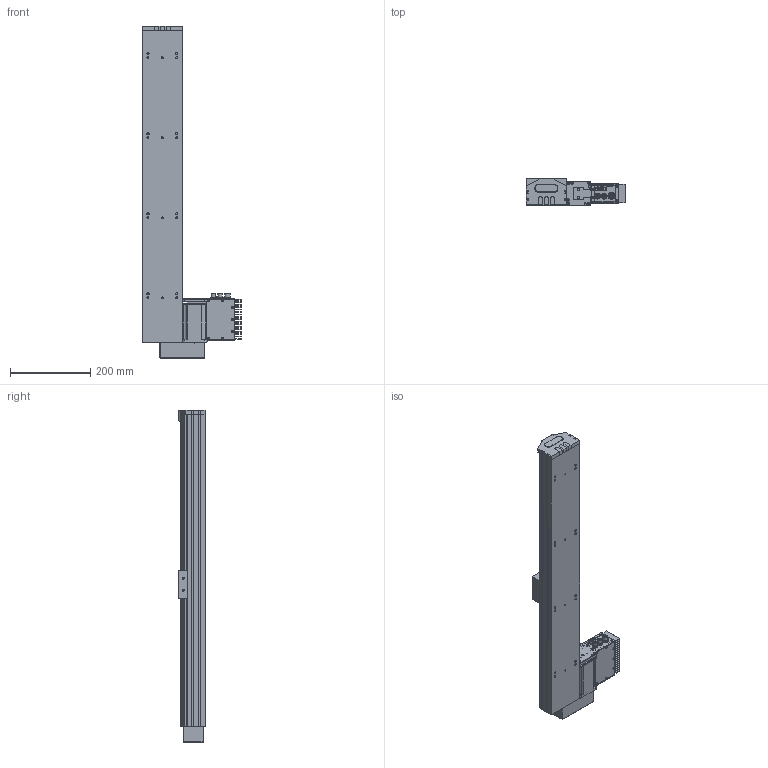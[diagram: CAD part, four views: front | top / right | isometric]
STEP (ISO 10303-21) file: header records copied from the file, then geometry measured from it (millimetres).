
FILE_DESCRIPTION (( 'STEP AP203' ), '1' );
FILE_NAME ('S10 TSN BR S600.STEP', '2012-08-31T13:53:14', ( 'Conseil Régional Haute-Normandie' ), ( 'Conseil Régional Haute-Normandie' ), 'SwSTEP 2.0', 'SolidWorks 2010', '' );
FILE_SCHEMA (( 'CONFIG_CONTROL_DESIGN' ));
Length unit declared in the file: millimetre
Products named in the file (25): Colonnette_3; BU45 Carte d''axe A11_5; Sub D 9cts 90_X2_00B_X0__3; Connecteur rond D12 4cts_5; Vis TF 3 torkx_1_1; axe787; palette tbn; Vis TF 3 torkx; Pièce2_Default; S10 TSN BR  S600; Assem1_7; T_X2_00F4_X0_le contre le moteur_5; BU41 Carte Alimentation P05_3; Moteur 60BLDC90A_3; Couvercle_3; T_X2_00F4_X0_le fond_3; Connecteur rond D10 3cts_5; Radiateur profil_X2_00E9_X0_ 100x25_3; Colonnette ronde_3; T_X2_00F4_X0_le Arri_X2_00E8_X0_re_5; T_X2_00F4_X0_le lat_X2_00E9_X0_rale_5; renvoi LH_Default; piece_plastique remplie_Default; embout_modifié; remplir_Default
Assembly tree (55 placements, depth 3):
  S10 TSN BR  S600
    Assem1_7
      Moteur 60BLDC90A_3
      Vis TF 3 torkx_1_1  x21
      T_X2_00F4_X0_le contre le moteur_5
      Connecteur rond D10 3cts_5  x2
      T_X2_00F4_X0_le lat_X2_00E9_X0_rale_5  x2
      BU41 Carte Alimentation P05_3
      Sub D 9cts 90_X2_00B_X0__3
      Colonnette ronde_3
      Radiateur profil_X2_00E9_X0_ 100x25_3
      T_X2_00F4_X0_le fond_3
      Colonnette_3  x2
      T_X2_00F4_X0_le Arri_X2_00E8_X0_re_5
      Connecteur rond D12 4cts_5
      Couvercle_3
      BU45 Carte d''axe A11_5
    Vis TF 3 torkx  x7
    palette tbn
    piece_plastique remplie_Default
      remplir_Default  x3
      embout_modifié
      Pièce2_Default
    axe787
    renvoi LH_Default
Bounding box: 248 x 68.06 x 829.5 mm (x, y, z)
Volume: 4768990.9 mm3; surface area: 644120.5 mm2
Topology: 53 solids, 53 shells, 1956 faces, 4980 edges, 3246 vertices
Faces by surface type: plane 924, cylinder 869, cone 156, bspline 4, torus 3
Entity records: 38367 total; most frequent: CARTESIAN_POINT 6482, DIRECTION 6231, ORIENTED_EDGE 5668, EDGE_CURVE 2834, AXIS2_PLACEMENT_3D 2284, VERTEX_POINT 1858, VECTOR 1663, LINE 1663
